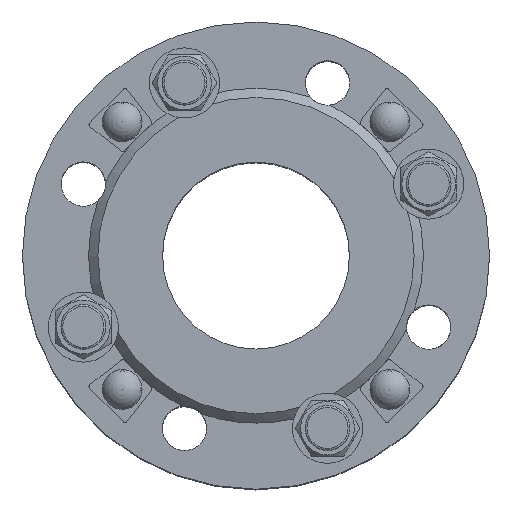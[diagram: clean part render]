
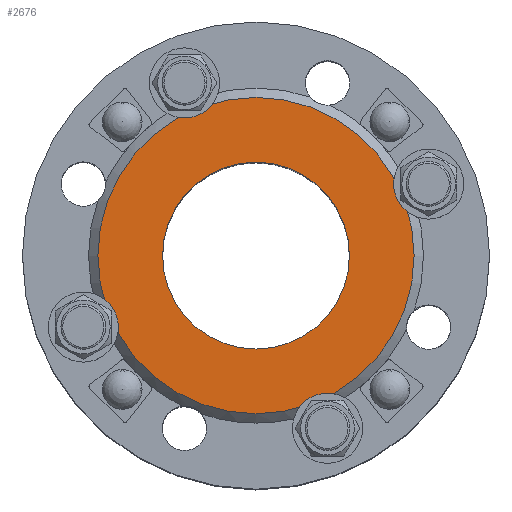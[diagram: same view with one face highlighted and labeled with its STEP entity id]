
A CAD part, top view. The second image highlights one B-rep face of the part: STEP entity #2676.
In plain terms, the highlighted planar face has unit normal (0, 0, 1) as drawn and (0, 0, -1) by its records, which use the part's own axes.
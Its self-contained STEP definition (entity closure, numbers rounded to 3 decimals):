
#2676=ADVANCED_FACE('',(#3909,#3911),#3913,.F.);
#3909=FACE_BOUND('',#3910,.T.);
#3910=EDGE_LOOP('',(#5703));
#3911=FACE_BOUND('',#3912,.T.);
#3912=EDGE_LOOP('',(#5704));
#3913=PLANE('',#3914);
#3914=AXIS2_PLACEMENT_3D('',#3915,#3916,#3917);
#3915=CARTESIAN_POINT('',(0.,0.,0.));
#3916=DIRECTION('',(0.,0.,1.));
#3917=DIRECTION('',(-1.,0.,0.));
#5703=ORIENTED_EDGE('',*,*,#6369,.F.);
#5704=ORIENTED_EDGE('',*,*,#6439,.T.);
#6369=EDGE_CURVE('',#7176,#7176,#7177,.T.);
#6439=EDGE_CURVE('',#7280,#7280,#7281,.T.);
#7176=VERTEX_POINT('',#12731);
#7177=CIRCLE('',#12732,67.7);
#7280=VERTEX_POINT('',#12993);
#7281=CIRCLE('',#12994,40.);
#12731=CARTESIAN_POINT('',(-67.7,0.,0.));
#12732=AXIS2_PLACEMENT_3D('',#12733,#12734,#12735);
#12733=CARTESIAN_POINT('',(0.,0.,0.));
#12734=DIRECTION('',(0.,0.,1.));
#12735=DIRECTION('',(-1.,0.,0.));
#12993=CARTESIAN_POINT('',(-40.,0.,0.));
#12994=AXIS2_PLACEMENT_3D('',#12995,#12996,#12997);
#12995=CARTESIAN_POINT('',(0.,0.,0.));
#12996=DIRECTION('',(0.,0.,1.));
#12997=DIRECTION('',(-1.,0.,0.));
